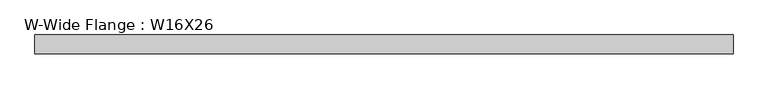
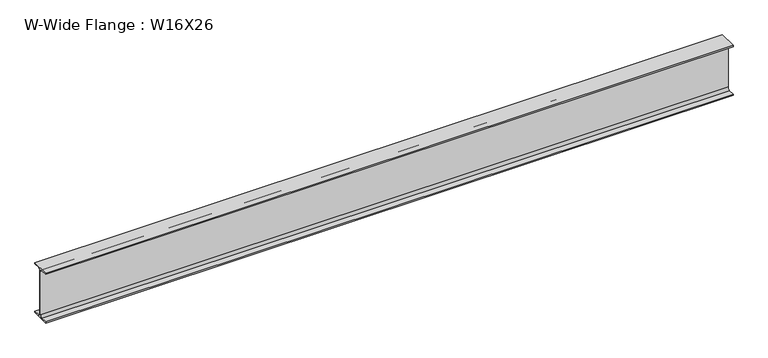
"""IFC4 building model written with IfcOpenShell, lengths in millimetres: beam geometry, W-Wide Flange : W16X26."""

from ifc_helpers import new_model, si_unit, point, frame, frame_2d, origin, place, context, project, spatial, polyline, circle_curve, trimmed, segment, composite_curve, outline, extrude, source, transform, mapped, element, save


def w_wide_flange_w16x26_5b3d2ce1(model_context):
    return source(origin(), model_context, "Body", "SweptSolid", [
        extrude(outline(composite_curve([segment(polyline([(69.85, -190.5496094), (69.85, -199.2808594), (-69.85, -199.2808594), (-69.85, -190.5496094), (-21.43125, -190.5496094)]), True, "CONTINUOUS"), segment(trimmed(circle_curve(frame_2d((-21.43125, -172.2933594)), 18.25625), [point((-21.43125, -190.5496094))], [point((-3.175, -172.2933594))], True, "CARTESIAN"), True, "CONTINUOUS"), segment(polyline([(-3.175, -172.2933594), (-3.175, 172.2933594)]), True, "CONTINUOUS"), segment(trimmed(circle_curve(frame_2d((-21.43125, 172.2933594)), 18.25625), [point((-3.175, 172.2933594))], [point((-21.43125, 190.5496094))], True, "CARTESIAN"), True, "CONTINUOUS"), segment(polyline([(-21.43125, 190.5496094), (-69.85, 190.5496094), (-69.85, 199.2808594), (69.85, 199.2808594), (69.85, 190.5496094), (21.43125, 190.5496094)]), True, "CONTINUOUS"), segment(trimmed(circle_curve(frame_2d((21.43125, 172.2933594)), 18.25625), [point((21.43125, 190.5496094))], [point((3.175, 172.2933594))], True, "CARTESIAN"), True, "CONTINUOUS"), segment(polyline([(3.175, 172.2933594), (3.175, -172.2933594)]), True, "CONTINUOUS"), segment(trimmed(circle_curve(frame_2d((21.43125, -172.2933594)), 18.25625), [point((3.175, -172.2933594))], [point((21.43125, -190.5496094))], True, "CARTESIAN"), True, "CONTINUOUS"), segment(polyline([(21.43125, -190.5496094), (69.85, -190.5496094)]), True, "CONTINUOUS")], self_intersect=False)), frame((-2600.8583466, 0.0, 0.0), z_axis=(1.0, 0.0, 0.0), x_axis=(0.0, 1.0, 0.0)), (0.0, 0.0, 1.0), 5201.7166933),
    ])


if __name__ == "__main__":
    model = new_model("IFC4")
    model_context = context("Model", 3, world=origin())
    ifc_project = project(units=[si_unit("LENGTHUNIT", "METRE", prefix="MILLI")], contexts=[model_context])
    site = spatial("IfcSite", under=ifc_project)
    building = spatial("IfcBuilding", under=site)
    placement = place(None, origin())
    w_wide_flange_w16x26_shape = w_wide_flange_w16x26_5b3d2ce1(model_context)
    element("IfcBeam", 1, ObjectType="W-Wide Flange : W16X26", at=placement, inside=building, context=model_context, shape_type="MappedRepresentation", body=[
        mapped(w_wide_flange_w16x26_shape, transform((0.0, 0.0, 0.0), x_axis=(1.0, 0.0, 0.0), y_axis=(0.0, 1.0, 0.0), z_axis=(0.0, 0.0, 1.0))),
    ])
    save(model, "model.ifc")
